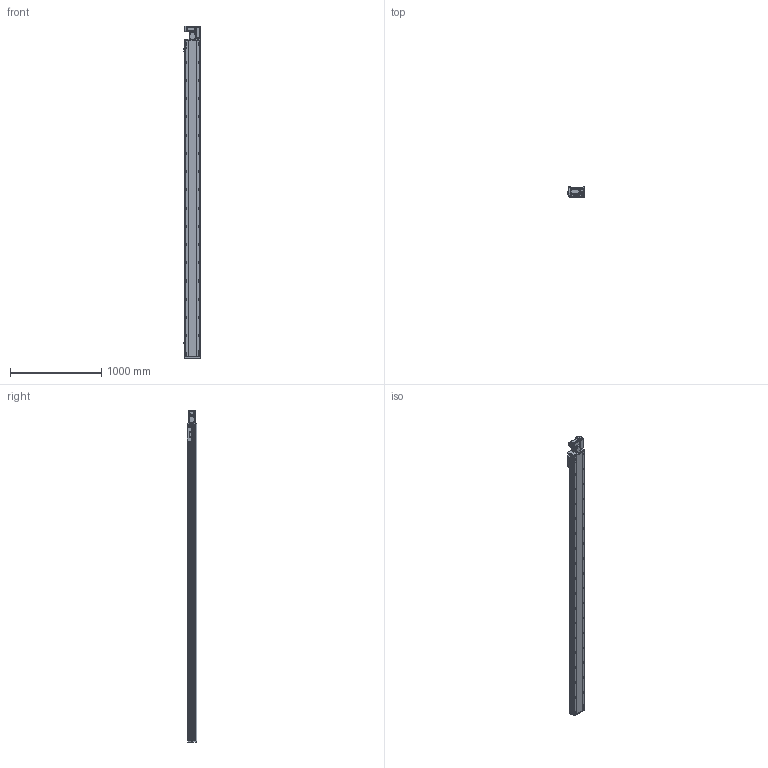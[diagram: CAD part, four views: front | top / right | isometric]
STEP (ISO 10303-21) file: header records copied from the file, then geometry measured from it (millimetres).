
FILE_DESCRIPTION (( 'STEP AP214' ), '1' );
FILE_NAME ('RTB17S-XX-3200-R-M40-C4.STEP', '2025-12-11T07:58:56', ( '' ), ( '' ), 'SwSTEP 2.0', 'SolidWorks 2018', '' );
FILE_SCHEMA (( 'AUTOMOTIVE_DESIGN' ));
Length unit declared in the file: millimetre
Products named in the file (14): RTB17S-L-001耜醱啣^RTB17S-XX-XX-R-M40-C4; RTB14-L-008-M20--萇儂啣^RTB17S-R-々湍釱蚾饜-400W_RTB17S-XX-XX-R-M40-C4; RTB17-R-011菁釱^RTB17S-XX-XX-R-M40-C4; RTB17S-L-004佪裝蹟譫蟀諉釱^RTB17S-XX-XX-R-M40-C4; RTB17S-R-々湍釱蚾饜-400W^RTB17S-XX-XX-R-M40-C4; RTB14-L-005P--轴承塑胶压盖^RTB17S-R-皮带座装配-400W_RTB17S-XX-XX-R-M40-C4; RTB14-L-017P^RTB17S-R-々湍釱蚾饜-400W_RTB17S-XX-XX-R-M40-C4; RTB17S-L-014-T20--々湍釱^RTB17S-R-々湍釱蚾饜-400W_RTB17S-XX-XX-R-M40-C4; RTH13-BL-012覜茼え俋离^RTB17S-XX-XX-R-M40-C4; OMRON EE-SX672 传感器^RTB17S-XX-XX-R-M40-C4; 400W侜督萇儂^RTB17S-XX-XX-R-M40-C4; RTB17S-L-007奻裔^RTB17S-XX-XX-R-M40-C4; RTB14-L-018P^RTB17S-R-々湍釱蚾饜-400W_RTB17S-XX-XX-R-M40-C4; RTB17S-XX-3200-R-M40-C4
Assembly tree (16 placements, depth 3):
  RTB17S-XX-3200-R-M40-C4
    RTB17-R-011菁釱^RTB17S-XX-XX-R-M40-C4
    RTB17S-L-007奻裔^RTB17S-XX-XX-R-M40-C4
    OMRON EE-SX672 传感器^RTB17S-XX-XX-R-M40-C4  x3
    RTB17S-L-001耜醱啣^RTB17S-XX-XX-R-M40-C4
    400W侜督萇儂^RTB17S-XX-XX-R-M40-C4
    RTB17S-L-004佪裝蹟譫蟀諉釱^RTB17S-XX-XX-R-M40-C4
    RTH13-BL-012覜茼え俋离^RTB17S-XX-XX-R-M40-C4
    RTB17S-R-々湍釱蚾饜-400W^RTB17S-XX-XX-R-M40-C4
      RTB17S-L-014-T20--々湍釱^RTB17S-R-々湍釱蚾饜-400W_RTB17S-XX-XX-R-M40-C4
      RTB14-L-005P--轴承塑胶压盖^RTB17S-R-皮带座装配-400W_RTB17S-XX-XX-R-M40-C4
      RTB14-L-008-M20--萇儂啣^RTB17S-R-々湍釱蚾饜-400W_RTB17S-XX-XX-R-M40-C4
      RTB14-L-017P^RTB17S-R-々湍釱蚾饜-400W_RTB17S-XX-XX-R-M40-C4  x2
      RTB14-L-018P^RTB17S-R-々湍釱蚾饜-400W_RTB17S-XX-XX-R-M40-C4
Bounding box: 183.5 x 108 x 3641 mm (x, y, z)
Volume: 30317776.9 mm3; surface area: 3453606.6 mm2
Topology: 15 solids, 15 shells, 2381 faces, 6681 edges, 4365 vertices
Faces by surface type: plane 1090, cylinder 843, bspline 301, cone 139, torus 8
Entity records: 71081 total; most frequent: CARTESIAN_POINT 20286, ORIENTED_EDGE 10206, DIRECTION 9386, EDGE_CURVE 5103, VERTEX_POINT 3353, AXIS2_PLACEMENT_3D 3283, LINE 2820, VECTOR 2820
